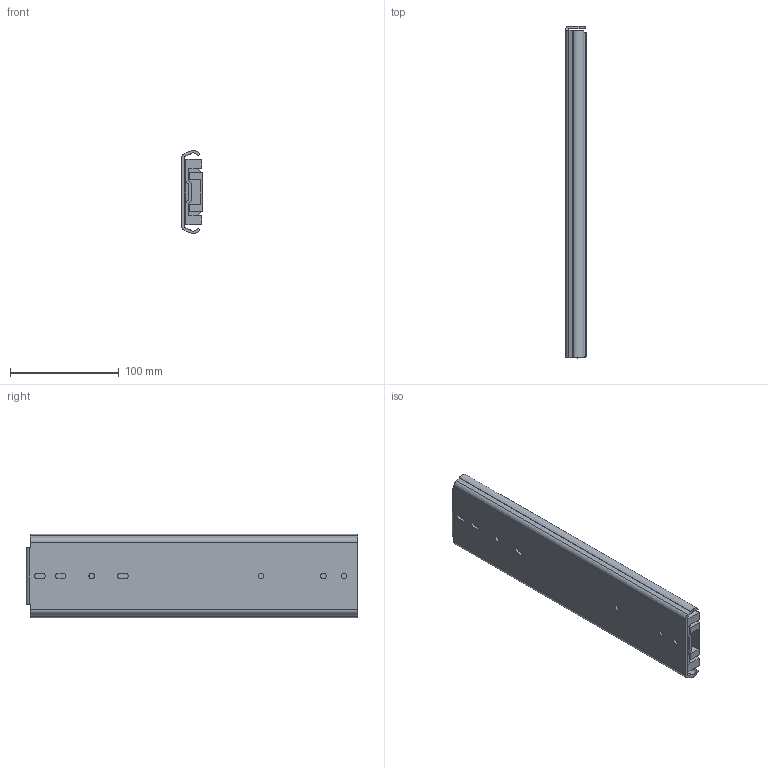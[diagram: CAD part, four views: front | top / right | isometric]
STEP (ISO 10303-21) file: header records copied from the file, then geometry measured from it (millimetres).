
FILE_DESCRIPTION(/* description */ ('Unknown'),/* implementation_level */ '2;1');
FILE_NAME(/* name */ '76J01-12 close',/* time_stamp */ '2024-07-26T14:54:47+08:00',/* author */ ('Unknown'),/* organization */ ('Unknown'),/* preprocessor_version */ 'ST-DEVELOPER v18.104',/* originating_system */ 'Solid Edge',/* authorisation */ 'Unknown');
FILE_SCHEMA (('AUTOMOTIVE_DESIGN {1 0 10303 214 3 1 1}'));
Length unit declared in the file: millimetre
Products named in the file (4): 76J01-12 close; 76J01 12 吋; 76J01 12 inch 內
Assembly tree (3 placements, depth 2):
  76J01-12 close
    76J01 12 吋
    76J01 12 inch 內
    76J01 12 吋
Bounding box: 19.3 x 304.8 x 76.76 mm (x, y, z)
Volume: 235213.2 mm3; surface area: 147992.5 mm2
Topology: 3 solids, 3 shells, 162 faces, 487 edges, 327 vertices
Faces by surface type: plane 92, cylinder 70
Full cylindrical faces by diameter (mm): 5.2 x7
Entity records: 5935 total; most frequent: CARTESIAN_POINT 962, ORIENTED_EDGE 946, DIRECTION 945, EDGE_CURVE 473, LINE 331, VECTOR 331, VERTEX_POINT 320, AXIS2_PLACEMENT_3D 307
